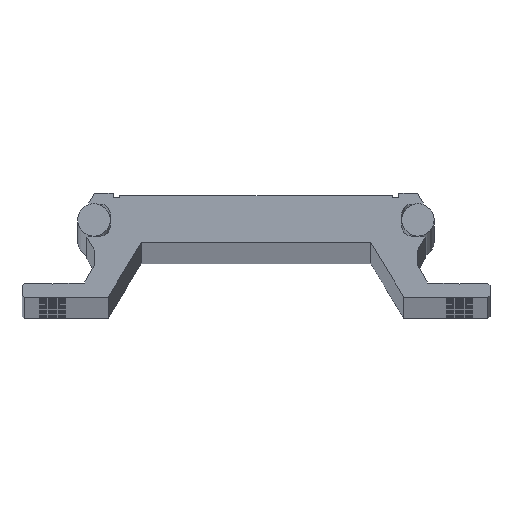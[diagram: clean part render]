
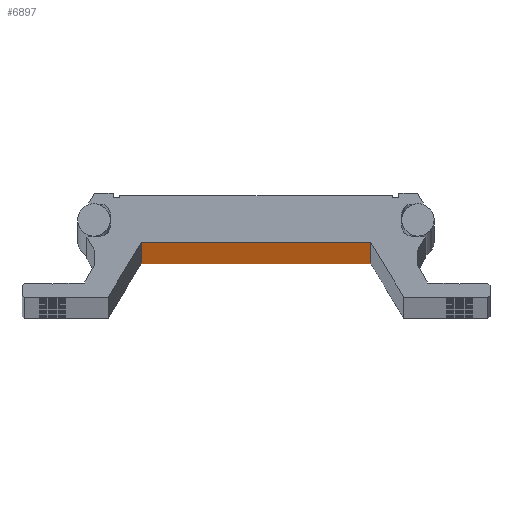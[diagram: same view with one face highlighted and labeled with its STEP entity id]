
A CAD part, top view. The second image highlights one B-rep face of the part: STEP entity #6897.
In plain terms, the highlighted planar face has unit normal (0, -1, 0).
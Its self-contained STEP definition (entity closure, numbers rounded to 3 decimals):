
#2224 = DIRECTION ( 'NONE',  ( 1., 0., 0. ) ) ;
#2225 = VECTOR ( 'NONE', #2224, 1000. ) ;
#2226 = CARTESIAN_POINT ( 'NONE',  ( 28.2, 13.5, 0. ) ) ;
#2227 = LINE ( 'NONE', #2226, #2225 ) ;
#2266 = CARTESIAN_POINT ( 'NONE',  ( -28.2, 13.5, 0. ) ) ;
#3280 = DIRECTION ( 'NONE',  ( 0., 0., -1. ) ) ;
#3281 = DIRECTION ( 'NONE',  ( 0., -1., 0. ) ) ;
#3282 = CARTESIAN_POINT ( 'NONE',  ( 28.2, 13.5, -2996. ) ) ;
#3283 = AXIS2_PLACEMENT_3D ( 'NONE', #3282, #3281, #3280 ) ;
#3284 = PLANE ( 'NONE',  #3283 ) ;
#3285 = FACE_OUTER_BOUND ( 'NONE', #6901, .T. ) ;
#3295 = CARTESIAN_POINT ( 'NONE',  ( 28.2, 13.5, -2996. ) ) ;
#3296 = DIRECTION ( 'NONE',  ( 0., 0., 1. ) ) ;
#3297 = VECTOR ( 'NONE', #3296, 1000. ) ;
#3298 = CARTESIAN_POINT ( 'NONE',  ( 28.2, 13.5, -2996. ) ) ;
#3299 = LINE ( 'NONE', #3298, #3297 ) ;
#3301 = CARTESIAN_POINT ( 'NONE',  ( 28.2, 13.5, 0. ) ) ;
#3403 = DIRECTION ( 'NONE',  ( 1., 0., 0. ) ) ;
#3404 = VECTOR ( 'NONE', #3403, 1000. ) ;
#3405 = CARTESIAN_POINT ( 'NONE',  ( 28.2, 13.5, -2996. ) ) ;
#3406 = LINE ( 'NONE', #3405, #3404 ) ;
#3408 = CARTESIAN_POINT ( 'NONE',  ( -28.2, 13.5, -2996. ) ) ;
#3409 = DIRECTION ( 'NONE',  ( 0., 0., 1. ) ) ;
#3410 = VECTOR ( 'NONE', #3409, 1000. ) ;
#3411 = CARTESIAN_POINT ( 'NONE',  ( -28.2, 13.5, -2996. ) ) ;
#3412 = LINE ( 'NONE', #3411, #3410 ) ;
#6138 = ORIENTED_EDGE ( 'NONE', *, *, #6139, .F. ) ;
#6139 = EDGE_CURVE ( 'NONE', #6140, #6878, #2227, .T. ) ;
#6140 = VERTEX_POINT ( 'NONE', #2266 ) ;
#6141 = ORIENTED_EDGE ( 'NONE', *, *, #6860, .F. ) ;
#6860 = EDGE_CURVE ( 'NONE', #6861, #6140, #3412, .T. ) ;
#6861 = VERTEX_POINT ( 'NONE', #3408 ) ;
#6862 = ORIENTED_EDGE ( 'NONE', *, *, #6863, .T. ) ;
#6863 = EDGE_CURVE ( 'NONE', #6861, #6885, #3406, .T. ) ;
#6864 = ORIENTED_EDGE ( 'NONE', *, *, #6882, .T. ) ;
#6878 = VERTEX_POINT ( 'NONE', #3301 ) ;
#6882 = EDGE_CURVE ( 'NONE', #6885, #6878, #3299, .T. ) ;
#6885 = VERTEX_POINT ( 'NONE', #3295 ) ;
#6897 = ADVANCED_FACE ( 'NONE', ( #3285 ), #3284, .T. ) ;
#6901 = EDGE_LOOP ( 'NONE', ( #6138, #6141, #6862, #6864 ) ) ;
